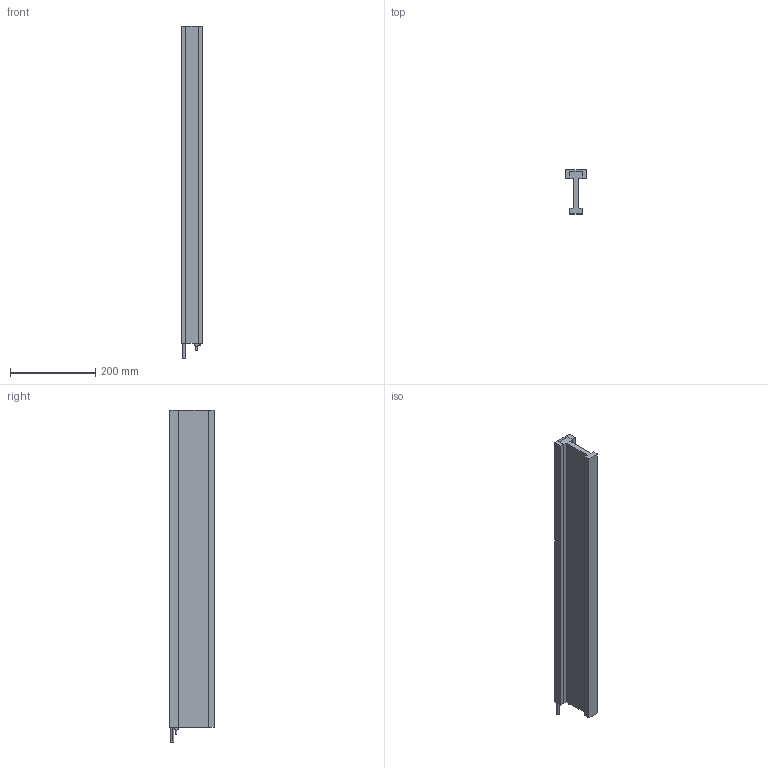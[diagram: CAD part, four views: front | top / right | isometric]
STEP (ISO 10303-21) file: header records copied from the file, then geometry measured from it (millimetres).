
FILE_DESCRIPTION (( 'STEP AP214' ), '1' );
FILE_NAME ('DX65F-C12.step', '2022-09-22T03:37:25', ( '' ), ( '' ), 'SwSTEP 2.0', 'SolidWorks 2020', '' );
FILE_SCHEMA (( 'AUTOMOTIVE_DESIGN' ));
Length unit declared in the file: millimetre
Products named in the file (1): DX65F-C12
Bounding box: 49 x 104 x 780 mm (x, y, z)
Volume: 1598515.9 mm3; surface area: 350367.9 mm2
Topology: 7 solids, 7 shells, 238 faces, 560 edges, 315 vertices
Faces by surface type: cylinder 84, plane 80, cone 66, torus 8
Entity records: 9126 total; most frequent: DIRECTION 1174, CARTESIAN_POINT 1124, ORIENTED_EDGE 1004, EDGE_CURVE 502, AXIS2_PLACEMENT_3D 437, VERTEX_POINT 315, VECTOR 300, LINE 300
